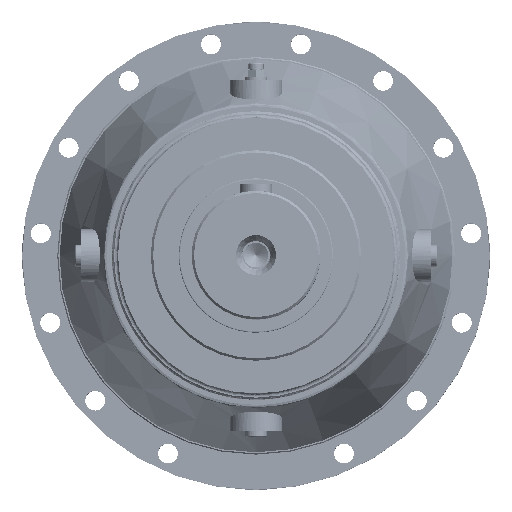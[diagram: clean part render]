
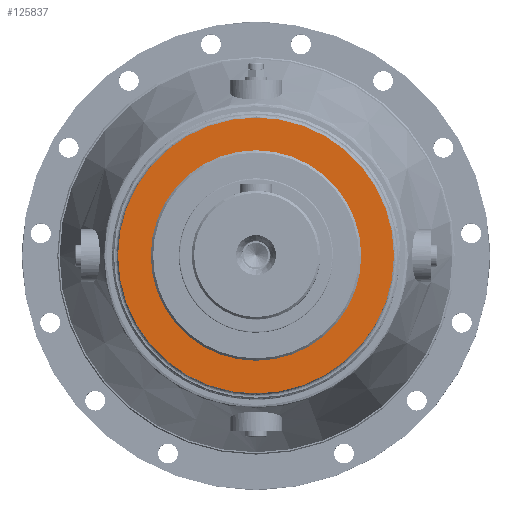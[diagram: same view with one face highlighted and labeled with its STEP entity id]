
A CAD part, top view. The second image highlights one B-rep face of the part: STEP entity #125837.
In plain terms, the highlighted planar face has unit normal (0, 0, 1).
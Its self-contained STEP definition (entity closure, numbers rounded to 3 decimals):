
#9760 = AXIS2_PLACEMENT_3D ( 'NONE', #93002, #92953, #92869 ) ;
#42347 = AXIS2_PLACEMENT_3D ( 'NONE', #121953, #121868, #121914 ) ;
#42398 = AXIS2_PLACEMENT_3D ( 'NONE', #122206, #122221, #122171 ) ;
#42632 = AXIS2_PLACEMENT_3D ( 'NONE', #122439, #122436, #122372 ) ;
#42683 = AXIS2_PLACEMENT_3D ( 'NONE', #122412, #122461, #122397 ) ;
#77475 = FACE_BOUND ( 'NONE', #163839, .T. ) ;
#77602 = FACE_OUTER_BOUND ( 'NONE', #163893, .T. ) ;
#77702 = ORIENTED_EDGE ( 'NONE', *, *, #169005, .F. ) ;
#77736 = ORIENTED_EDGE ( 'NONE', *, *, #169125, .F. ) ;
#77765 = ORIENTED_EDGE ( 'NONE', *, *, #169218, .F. ) ;
#77778 = ORIENTED_EDGE ( 'NONE', *, *, #169203, .F. ) ;
#84011 = CARTESIAN_POINT ( 'NONE',  ( 0., -118., 175. ) ) ;
#84017 = CARTESIAN_POINT ( 'NONE',  ( 0., 90., 175. ) ) ;
#84081 = CARTESIAN_POINT ( 'NONE',  ( 0., 118., 175. ) ) ;
#84083 = CARTESIAN_POINT ( 'NONE',  ( 0., -90., 175. ) ) ;
#92869 = DIRECTION ( 'NONE',  ( 0., 1., 0. ) ) ;
#92953 = DIRECTION ( 'NONE',  ( 0., 0., -1. ) ) ;
#92961 = PLANE ( 'NONE',  #9760 ) ;
#93002 = CARTESIAN_POINT ( 'NONE',  ( 0., 118., 175. ) ) ;
#114502 = CIRCLE ( 'NONE', #42347, 90. ) ;
#115131 = CIRCLE ( 'NONE', #42398, 90. ) ;
#115213 = CIRCLE ( 'NONE', #42632, 118. ) ;
#115239 = CIRCLE ( 'NONE', #42683, 118. ) ;
#121868 = DIRECTION ( 'NONE',  ( 0., 0., 1. ) ) ;
#121914 = DIRECTION ( 'NONE',  ( 0., 1., 0. ) ) ;
#121953 = CARTESIAN_POINT ( 'NONE',  ( 0., 0., 175. ) ) ;
#122171 = DIRECTION ( 'NONE',  ( 0., 1., 0. ) ) ;
#122206 = CARTESIAN_POINT ( 'NONE',  ( 0., 0., 175. ) ) ;
#122221 = DIRECTION ( 'NONE',  ( 0., 0., 1. ) ) ;
#122372 = DIRECTION ( 'NONE',  ( 0., 1., 0. ) ) ;
#122397 = DIRECTION ( 'NONE',  ( 0., 1., 0. ) ) ;
#122412 = CARTESIAN_POINT ( 'NONE',  ( 0., 0., 175. ) ) ;
#122436 = DIRECTION ( 'NONE',  ( 0., 0., -1. ) ) ;
#122439 = CARTESIAN_POINT ( 'NONE',  ( 0., 0., 175. ) ) ;
#122461 = DIRECTION ( 'NONE',  ( 0., 0., -1. ) ) ;
#125837 = ADVANCED_FACE ( 'NONE', ( #77475, #77602 ), #92961, .F. ) ;
#163839 = EDGE_LOOP ( 'NONE', ( #77736, #77702 ) ) ;
#163893 = EDGE_LOOP ( 'NONE', ( #77778, #77765 ) ) ;
#164385 = VERTEX_POINT ( 'NONE', #84017 ) ;
#164423 = VERTEX_POINT ( 'NONE', #84011 ) ;
#164852 = VERTEX_POINT ( 'NONE', #84081 ) ;
#164925 = VERTEX_POINT ( 'NONE', #84083 ) ;
#169005 = EDGE_CURVE ( 'NONE', #164925, #164385, #114502, .T. ) ;
#169125 = EDGE_CURVE ( 'NONE', #164385, #164925, #115131, .T. ) ;
#169203 = EDGE_CURVE ( 'NONE', #164423, #164852, #115213, .T. ) ;
#169218 = EDGE_CURVE ( 'NONE', #164852, #164423, #115239, .T. ) ;
